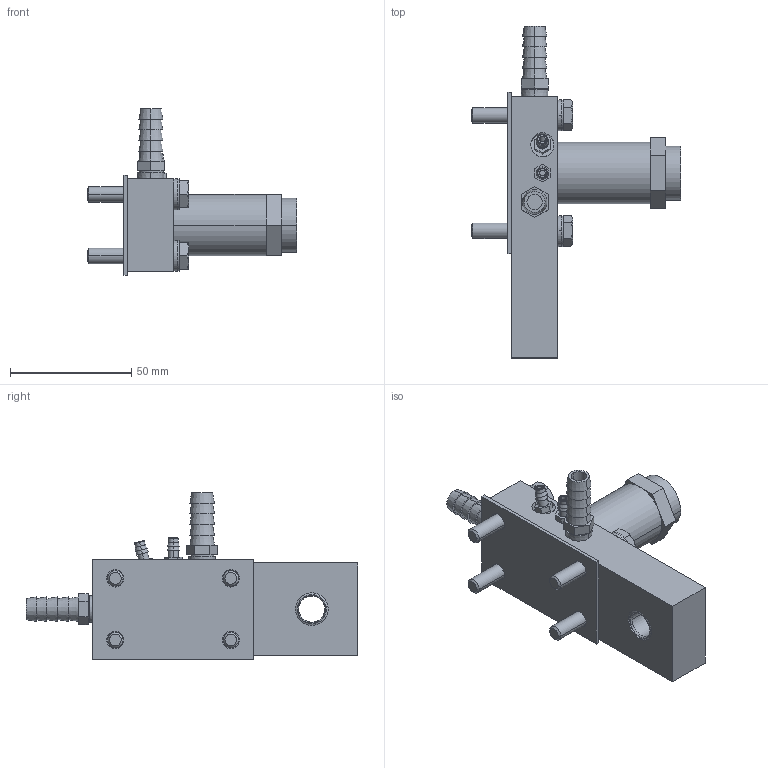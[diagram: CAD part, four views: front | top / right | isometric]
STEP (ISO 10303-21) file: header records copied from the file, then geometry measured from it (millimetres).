
FILE_DESCRIPTION((''),'2;1');
FILE_NAME('UJR2_ASM','2017-08-24T',('jennifer.elliott'),('CenterLine (Windsor) Ltd - Automation Components Division'),'PRO/ENGINEER BY PARAMETRIC TECHNOLOGY CORPORATION, 2015030','PRO/ENGINEER BY PARAMETRIC TECHNOLOGY CORPORATION, 2015030','');
FILE_SCHEMA(('AUTOMOTIVE_DESIGN { 1 0 10303 214 1 1 1 1 }'));
Length unit declared in the file: inch
Products named in the file (23): PRT0380; PRT0381; PRT0382; PRT0383; PRT0384; PRT0385; PRT0386; PRT0387; PRT0388; PRT0389; PRT0390; PRT0391; PRT0392; PRT0393; PRT0394; PRT0395; PRT0396; PRT0397; PRT0398; PRT0399; PRT0400; TMP_DWG-3DSOLID_57; UJR2_ASM
Assembly tree (22 placements, depth 2):
  UJR2_ASM
    PRT0380
    PRT0381
    PRT0382
    PRT0383
    PRT0384
    PRT0385
    PRT0386
    PRT0387
    PRT0388
    PRT0389
    PRT0390
    PRT0391
    PRT0392
    PRT0393
    PRT0394
    PRT0395
    PRT0396
    PRT0397
    PRT0398
    PRT0399
    PRT0400
    TMP_DWG-3DSOLID_57
Bounding box: 86.55 x 136.91 x 68.64 mm (x, y, z)
Volume: 112263.1 mm3; surface area: 42996 mm2
Topology: 22 solids, 22 shells, 314 faces, 670 edges, 430 vertices
Faces by surface type: plane 136, cylinder 98, cone 72, torus 8
Entity records: 10286 total; most frequent: CARTESIAN_POINT 1825, DIRECTION 1648, ORIENTED_EDGE 1340, AXIS2_PLACEMENT_3D 671, EDGE_CURVE 670, VERTEX_POINT 430, EDGE_LOOP 388, FACE_OUTER_BOUND 314
